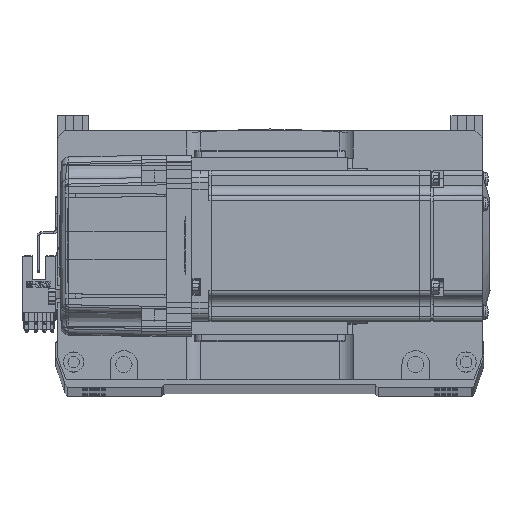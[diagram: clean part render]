
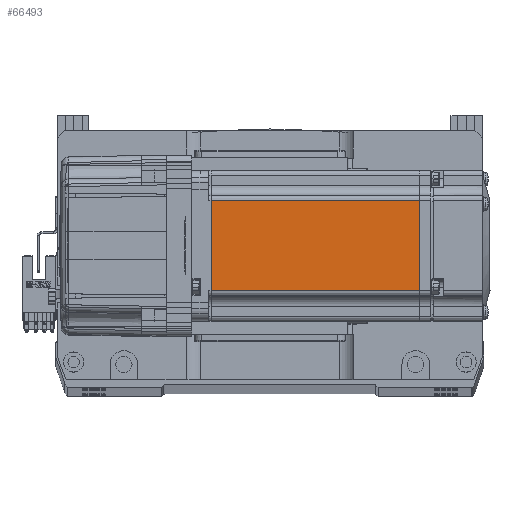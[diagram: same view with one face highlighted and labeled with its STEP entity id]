
A CAD part, top view. The second image highlights one B-rep face of the part: STEP entity #66493.
In plain terms, the highlighted planar face has unit normal (0, 0, 1) as drawn and (0, -1, 0) by its records, which use the part's own axes.
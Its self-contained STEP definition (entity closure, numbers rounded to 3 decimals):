
#3269 = CARTESIAN_POINT ( 'NONE',  ( -7.75, -30., -18. ) ) ;
#3940 = FACE_OUTER_BOUND ( 'NONE', #37028, .T. ) ;
#4877 = LINE ( 'NONE', #58856, #33195 ) ;
#6919 = DIRECTION ( 'NONE',  ( 0., 0., -1. ) ) ;
#9600 = DIRECTION ( 'NONE',  ( 0., 0., 1. ) ) ;
#10083 = CARTESIAN_POINT ( 'NONE',  ( -90.45, -30., 18. ) ) ;
#13329 = CARTESIAN_POINT ( 'NONE',  ( -7.75, -30., 18. ) ) ;
#14400 = VERTEX_POINT ( 'NONE', #41571 ) ;
#14738 = VERTEX_POINT ( 'NONE', #3269 ) ;
#18699 = VECTOR ( 'NONE', #27563, 1000. ) ;
#19202 = VECTOR ( 'NONE', #9600, 1000. ) ;
#20621 = EDGE_CURVE ( 'NONE', #24184, #14400, #50967, .T. ) ;
#21801 = ORIENTED_EDGE ( 'NONE', *, *, #47469, .T. ) ;
#22591 = CARTESIAN_POINT ( 'NONE',  ( -6.5, -30., 18. ) ) ;
#24184 = VERTEX_POINT ( 'NONE', #10083 ) ;
#25606 = CARTESIAN_POINT ( 'NONE',  ( -7.75, -30., -25. ) ) ;
#27563 = DIRECTION ( 'NONE',  ( -1., 0., 0. ) ) ;
#32497 = DIRECTION ( 'NONE',  ( 1., 0., 0. ) ) ;
#32822 = AXIS2_PLACEMENT_3D ( 'NONE', #37447, #48273, #63780 ) ;
#33195 = VECTOR ( 'NONE', #32497, 1000. ) ;
#33321 = LINE ( 'NONE', #22591, #18699 ) ;
#34602 = LINE ( 'NONE', #25606, #19202 ) ;
#37028 = EDGE_LOOP ( 'NONE', ( #55090, #51444, #47562, #21801 ) ) ;
#37447 = CARTESIAN_POINT ( 'NONE',  ( -6.5, -30., -25. ) ) ;
#41270 = VECTOR ( 'NONE', #6919, 1000. ) ;
#41571 = CARTESIAN_POINT ( 'NONE',  ( -90.45, -30., -18. ) ) ;
#43786 = EDGE_CURVE ( 'NONE', #14738, #48158, #34602, .T. ) ;
#46959 = EDGE_CURVE ( 'NONE', #48158, #24184, #33321, .T. ) ;
#47469 = EDGE_CURVE ( 'NONE', #14400, #14738, #4877, .T. ) ;
#47562 = ORIENTED_EDGE ( 'NONE', *, *, #20621, .T. ) ;
#48158 = VERTEX_POINT ( 'NONE', #13329 ) ;
#48273 = DIRECTION ( 'NONE',  ( 0., -1., 0. ) ) ;
#50967 = LINE ( 'NONE', #53858, #41270 ) ;
#51444 = ORIENTED_EDGE ( 'NONE', *, *, #46959, .T. ) ;
#53641 = PLANE ( 'NONE',  #32822 ) ;
#53858 = CARTESIAN_POINT ( 'NONE',  ( -90.45, -30., -25. ) ) ;
#55090 = ORIENTED_EDGE ( 'NONE', *, *, #43786, .T. ) ;
#58856 = CARTESIAN_POINT ( 'NONE',  ( -6.5, -30., -18. ) ) ;
#63780 = DIRECTION ( 'NONE',  ( 0., 0., -1. ) ) ;
#66493 = ADVANCED_FACE ( 'NONE', ( #3940 ), #53641, .T. ) ;
